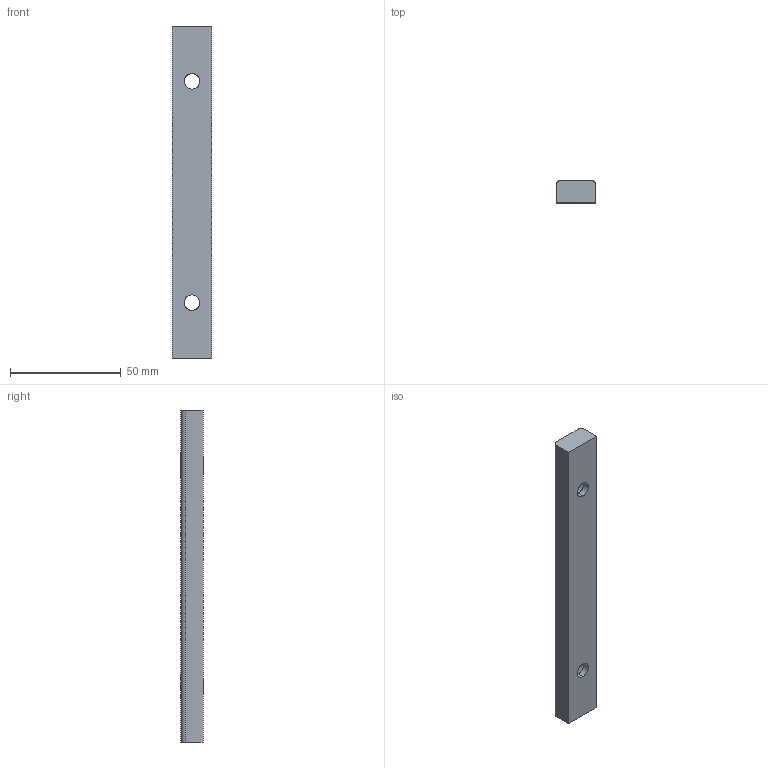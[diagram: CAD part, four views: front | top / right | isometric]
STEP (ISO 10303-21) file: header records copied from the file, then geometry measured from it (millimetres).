
FILE_DESCRIPTION(('CATIA V5 STEP Exchange'),'2;1');
FILE_NAME('C:\Users\Utente\Desktop\3D files A606\A606-018-150.stp','2020-04-13T18:08:04+00:00',('none'),('none'),'CATIA Version 5 Release 20 GA (IN-10)','CATIA V5 STEP AP203','none');
FILE_SCHEMA(('CONFIG_CONTROL_DESIGN'));
Length unit declared in the file: millimetre
Products named in the file (1): Noname
Bounding box: 18 x 10 x 150 mm (x, y, z)
Surface area: 8960.9 mm2 (no closed solid volume)
Topology: 0 solids, 14 shells, 18 faces, 76 edges, 68 vertices
Faces by surface type: cylinder 10, extrusion 8
Entity records: 1044 total; most frequent: CARTESIAN_POINT 415, DIRECTION 84, ORIENTED_EDGE 84, EDGE_CURVE 76, VERTEX_POINT 68, VECTOR 44, LINE 36, AXIS2_PLACEMENT_3D 31
